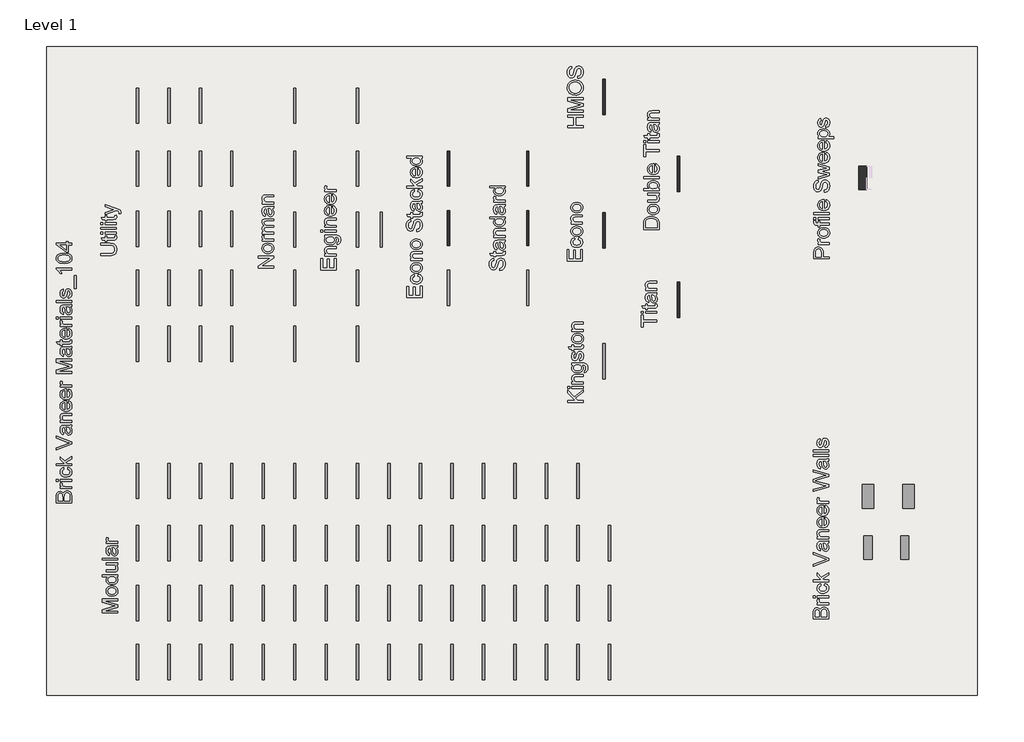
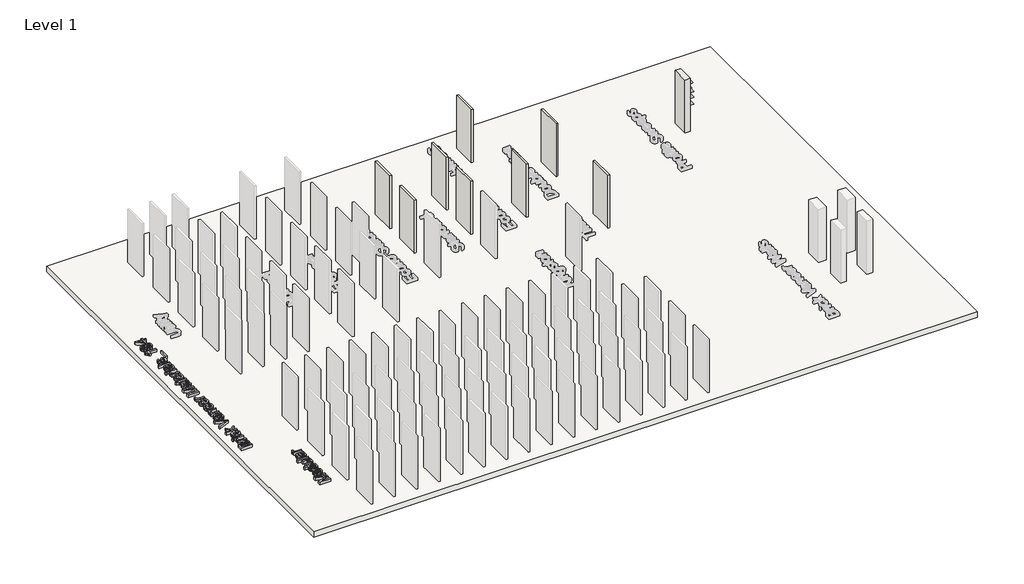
# One storey, part 2 of 6: 9 walls, 2 proxies, 1 slab.
"""IFC4 building model written with IfcOpenShell, lengths in millimetres."""

from ifc_helpers import new_model, si_unit, frame, origin, origin_with_axes, place, context, project, spatial, polyline, outline, extrude, element, save

model = new_model("IFC4")

# Units and contexts
model_context = context("Model", 3, world=origin())
ifc_project = project(units=[si_unit("LENGTHUNIT", "METRE", prefix="MILLI")], contexts=[model_context])

# Site, building, storey
site = spatial("IfcSite", under=ifc_project)
building = spatial("IfcBuilding", under=site)
storey = spatial("IfcBuildingStorey", under=building, Name="Level 1", Elevation=0.0)

# Proxies
placement = place(None, origin())
element("IfcBuildingElementProxy", 1, Name="24\" Arial", ObjectType="24\" Arial", at=placement, inside=storey, context=model_context, shape_type="SweptSolid", body=[
    extrude(outline(polyline([(-13658.2279191, -5062.6196395), (-14258.4494575, -5062.6196395), (-14258.4494575, -4833.5800241), (-14254.0349864, -4770.586803), (-14240.7915729, -4721.4048318), (-14230.7765849, -4701.4114905), (-14218.3895056, -4683.7078126), (-14203.6303349, -4668.2937981), (-14186.4990729, -4655.1694472), (-14148.9852267, -4637.2001683), (-14109.7129191, -4631.2104087), (-14073.572871, -4636.2476683), (-14039.5942652, -4651.3594472), (-14009.8652748, -4676.6556491), (-13986.4740729, -4712.246178), (-13976.8208517, -4689.6014063), (-13964.273496, -4669.7317068), (-13948.8320056, -4652.6370794), (-13930.4963806, -4638.3175241), (-13909.8252989, -4627.0020073), (-13887.3774383, -4618.9194953), (-13863.1527989, -4614.0699881), (-13837.1513806, -4612.4534856), (-13795.2963325, -4616.8679568), (-13756.4819575, -4630.1113703), (-13723.4741691, -4649.8757453), (-13699.0388806, -4673.853101), (-13681.3443614, -4703.2157453), (-13668.5588806, -4739.1359856), (-13660.8106594, -4782.7861299), (-13658.2279191, -4835.3384856), (-13658.2279191, -5062.6196395)]), holes=[polyline([(-14014.6094575, -4987.5919472), (-14014.6094575, -4850.5784856), (-14016.2213806, -4802.6604087), (-14021.0571498, -4770.5684856), (-14032.1757556, -4742.5613222), (-14048.8261883, -4722.430601), (-14070.7520056, -4710.286226), (-14097.6967652, -4706.238101), (-14123.8538806, -4710.0114664), (-14146.6406114, -4721.3315626), (-14164.4267171, -4739.6855049), (-14175.5819575, -4764.5604087), (-14181.4618133, -4802.733678), (-14183.4217652, -4860.9827164), (-14183.4217652, -4987.5919472), (-14014.6094575, -4987.5919472)]), polyline([(-13733.2556114, -4987.5919472), (-13733.2556114, -4833.7265626), (-13736.1863806, -4778.0419472), (-13742.6890248, -4752.196226), (-13752.5254191, -4730.9298318), (-13766.6114287, -4713.6382933), (-13785.8629191, -4699.7171395), (-13809.4189767, -4690.5401683), (-13836.4186883, -4687.481178), (-13867.7779191, -4691.0713703), (-13894.740996, -4701.8419472), (-13915.8242171, -4720.6538222), (-13929.5438806, -4748.3679087), (-13937.0722941, -4787.6218991), (-13939.5817652, -4841.0534856), (-13939.5817652, -4987.5919472), (-13733.2556114, -4987.5919472)])]), origin_with_axes(), (0.0, 0.0, 1.0), 152.4),
    extrude(outline(polyline([(-13658.2279191, -4518.6688703), (-14099.0156114, -4518.6688703), (-14099.0156114, -4453.0196395), (-14033.805996, -4453.0196395), (-14071.6129191, -4428.7675241), (-14093.8867652, -4406.4204087), (-14104.767246, -4384.0000241), (-14108.3940729, -4359.528101), (-14102.6058037, -4322.1607933), (-14085.240996, -4284.2073318), (-14017.9798421, -4309.2654087), (-14029.519746, -4335.6423318), (-14033.3663806, -4362.0192549), (-14029.6662844, -4384.4213222), (-14018.565996, -4404.4421395), (-14000.9081114, -4420.6163222), (-13977.5352267, -4431.4784856), (-13935.6252267, -4440.6005049), (-13889.9052267, -4443.641178), (-13658.2279191, -4443.641178), (-13658.2279191, -4518.6688703)])), origin_with_axes(), (0.0, 0.0, 1.0), 152.4),
    extrude(outline(polyline([(-14183.4217652, -4237.3150241), (-14258.4494575, -4237.3150241), (-14258.4494575, -4162.2873318), (-14183.4217652, -4162.2873318), (-14183.4217652, -4237.3150241)])), origin_with_axes(), (0.0, 0.0, 1.0), 152.4),
    extrude(outline(polyline([(-13658.2279191, -4237.3150241), (-14099.0156114, -4237.3150241), (-14099.0156114, -4162.2873318), (-13658.2279191, -4162.2873318), (-13658.2279191, -4237.3150241)])), origin_with_axes(), (0.0, 0.0, 1.0), 152.4),
    extrude(outline(polyline([(-13817.6617652, -3768.3919472), (-13808.2833037, -3693.3642549), (-13772.8805272, -3701.5246155), (-13741.5533517, -3714.2826203), (-13714.3017772, -3731.6382693), (-13691.1258037, -3753.5915626), (-13672.6299022, -3779.217476), (-13659.4185441, -3807.5909856), (-13651.4917291, -3838.7120914), (-13648.8494575, -3872.5807933), (-13652.5358157, -3914.6602284), (-13663.5948902, -3952.389303), (-13682.0266811, -3985.7680169), (-13707.8311883, -4014.7963703), (-13740.5230032, -4038.2928967), (-13779.6167171, -4055.0761299), (-13825.1123301, -4065.1460698), (-13877.0098421, -4068.5027164), (-13943.7764287, -4062.7693991), (-13973.8213926, -4055.6027525), (-14001.6408037, -4045.5694472), (-14026.675984, -4032.6007933), (-14048.3682556, -4016.628101), (-14066.7176186, -3997.6513703), (-14081.7240729, -3975.670601), (-14093.3921979, -3951.6795073), (-14101.7265729, -3926.671803), (-14106.7271979, -3900.6474881), (-14108.3940729, -3873.6065626), (-14106.1044094, -3840.3194352), (-14099.2354191, -3810.2103606), (-14087.7871017, -3783.279339), (-14071.7594575, -3759.5263703), (-14051.5188325, -3739.3544352), (-14027.4315729, -3723.1665145), (-13999.4976787, -3710.9626082), (-13967.7171498, -3702.7427164), (-13958.3386883, -3777.7704087), (-13991.0717171, -3791.3801683), (-14014.5361883, -3812.5732933), (-14028.6588325, -3840.177476), (-14033.3663806, -3873.0204087), (-14031.0492412, -3898.5135217), (-14024.0978229, -3921.5063222), (-14012.5121258, -3941.9988102), (-13996.2921498, -3959.9909856), (-13975.0623902, -3974.6402525), (-13948.4473421, -3985.1040145), (-13916.4470056, -3991.3822717), (-13879.0613806, -3993.4750241), (-13841.1124984, -3991.428065), (-13808.7412364, -3985.2871876), (-13781.9475945, -3975.0523919), (-13760.7315729, -3960.723678), (-13744.6077628, -3943.08869), (-13733.0907556, -3922.9350722), (-13726.1805513, -3900.2628246), (-13723.8771498, -3875.0719472), (-13729.6287844, -3836.2209376), (-13736.8183277, -3819.4193871), (-13746.8836883, -3804.3671395), (-13759.93477, -3791.4854929), (-13776.0814767, -3781.1957453), (-13795.3238085, -3773.4978967), (-13817.6617652, -3768.3919472)])), origin_with_axes(), (0.0, 0.0, 1.0), 152.4),
    extrude(outline(polyline([(-13658.2279191, -3627.7150241), (-14258.4494575, -3627.7150241), (-14258.4494575, -3552.6873318), (-13935.9183037, -3552.6873318), (-14099.0156114, -3384.461178), (-14099.0156114, -3280.7119472), (-13933.8667652, -3450.9896395), (-13658.2279191, -3271.3334856), (-13658.2279191, -3358.9634856), (-13881.6990729, -3504.7692549), (-13835.2463806, -3552.6873318), (-13658.2279191, -3552.6873318), (-13658.2279191, -3627.7150241)])), origin_with_axes(), (0.0, 0.0, 1.0), 152.4),
    extrude(outline(polyline([(-13658.2279191, -2784.5327164), (-14258.4494575, -3023.3904087), (-14258.4494575, -2943.0873318), (-13826.0144575, -2783.2138703), (-13728.5663806, -2750.8288703), (-13826.0144575, -2718.8834856), (-14258.4494575, -2558.5704087), (-14258.4494575, -2478.2673318), (-13658.2279191, -2707.0138703), (-13658.2279191, -2784.5327164)])), origin_with_axes(), (0.0, 0.0, 1.0), 152.4),
    extrude(outline(polyline([(-13714.4986883, -2136.5396395), (-13683.762246, -2172.3866106), (-13663.6498421, -2209.2959856), (-13652.5495537, -2248.1103606), (-13648.8494575, -2289.6723318), (-13651.0750104, -2323.0785217), (-13657.7516691, -2352.372476), (-13668.8794335, -2377.5541948), (-13684.4583037, -2398.623678), (-13703.499145, -2415.2603727), (-13725.0128229, -2427.143726), (-13748.9993373, -2434.2737381), (-13775.4586883, -2436.6504087), (-13806.5614767, -2433.0602164), (-13834.8067652, -2422.2896395), (-13858.9856114, -2405.6758414), (-13877.8890729, -2384.5559856), (-13892.1765729, -2359.7360337), (-13902.5075344, -2332.0219472), (-13913.790996, -2267.1054087), (-13925.6606114, -2190.3925241), (-13939.5817652, -2136.9792549), (-13956.2871498, -2136.5396395), (-13989.7711883, -2141.7051203), (-14002.1720056, -2148.1619712), (-14011.6786883, -2157.2015626), (-14021.1670537, -2172.826226), (-14027.9444575, -2191.8579087), (-14033.3663806, -2240.1423318), (-14029.757871, -2284.8365626), (-14018.9323421, -2316.0492549), (-13998.9115248, -2337.3339664), (-13967.7171498, -2352.2442549), (-13977.0956114, -2427.2719472), (-14018.1263806, -2414.2483414), (-14050.3648421, -2394.813678), (-14075.0199383, -2367.1545433), (-14093.3006114, -2329.4575241), (-14104.6207075, -2283.3528606), (-14108.3940729, -2230.4707933), (-14105.0603229, -2179.7501683), (-14095.0590729, -2139.543678), (-14080.0205633, -2109.2285337), (-14061.5750344, -2088.1819472), (-14038.7699864, -2074.2241587), (-14010.6529191, -2065.1754087), (-13945.0036883, -2061.5119472), (-13851.6586883, -2061.5119472), (-13721.3127267, -2057.7019472), (-13689.0925825, -2052.0602164), (-13658.2279191, -2042.7550241), (-13658.2279191, -2117.7827164), (-13684.3117652, -2129.7988703), (-13714.4986883, -2136.5396395)]), holes=[polyline([(-13864.5540729, -2136.5396395), (-13852.0616691, -2186.9488703), (-13841.5475344, -2257.5804087), (-13829.3848421, -2322.130601), (-13821.0687844, -2338.9275722), (-13809.6021498, -2351.3650241), (-13795.8641691, -2359.0582933), (-13780.7340729, -2361.6227164), (-13758.4235921, -2356.0359376), (-13740.1429191, -2339.275601), (-13727.9435921, -2311.708053), (-13723.8771498, -2273.6996395), (-13728.3648902, -2233.4015626), (-13741.8281114, -2197.7927164), (-13761.6657556, -2168.9246395), (-13785.2767652, -2148.8488703), (-13809.6021498, -2139.9466587), (-13843.305996, -2136.9792549), (-13864.5540729, -2136.5396395)])]), origin_with_axes(), (0.0, 0.0, 1.0), 152.4),
    extrude(outline(polyline([(-13658.2279191, -1958.3488703), (-14099.0156114, -1958.3488703), (-14099.0156114, -1883.321178), (-14037.4694575, -1883.321178), (-14068.4989767, -1857.2556491), (-14090.6629191, -1825.9513703), (-14103.9612844, -1789.4083414), (-14108.3940729, -1747.6265626), (-14104.8221979, -1710.6439183), (-14094.1065729, -1676.7752164), (-14077.5843614, -1648.529928), (-14056.5927267, -1628.4175241), (-14031.186621, -1614.7711299), (-14001.420996, -1605.9238703), (-13928.8844575, -1601.9673318), (-13658.2279191, -1601.9673318), (-13658.2279191, -1676.9950241), (-13918.7733037, -1676.9950241), (-13957.5693614, -1679.1564664), (-13985.1552267, -1685.6407933), (-14004.9196017, -1697.6019953), (-14020.2511883, -1716.1940626), (-14030.0875825, -1740.0248799), (-14033.3663806, -1767.7023318), (-14031.5254912, -1790.4844832), (-14026.0028229, -1811.645553), (-14016.7983758, -1831.1855409), (-14003.9121498, -1849.1044472), (-13985.8787604, -1864.0742669), (-13961.2328229, -1874.7669953), (-13929.9743373, -1881.1826323), (-13892.1033037, -1883.321178), (-13658.2279191, -1883.321178), (-13658.2279191, -1958.3488703)])), origin_with_axes(), (0.0, 0.0, 1.0), 152.4),
    extrude(outline(polyline([(-13789.5263806, -1190.1942549), (-13780.1479191, -1116.6319472), (-13750.6845296, -1127.9108294), (-13724.719746, -1143.1370914), (-13702.2535681, -1162.3107332), (-13683.285996, -1185.4317549), (-13668.2200104, -1212.2620313), (-13657.4585921, -1242.5634376), (-13651.0017412, -1276.3359736), (-13648.8494575, -1313.5796395), (-13652.5632916, -1360.133077), (-13663.7047941, -1401.6126203), (-13682.2739647, -1438.0182693), (-13708.2708037, -1469.3500241), (-13740.9717772, -1494.5454808), (-13779.6533517, -1512.5422356), (-13824.3155272, -1523.3402885), (-13874.9583037, -1526.9396395), (-13927.3183277, -1523.3036539), (-13973.4687844, -1512.3956972), (-14013.4096739, -1494.2157693), (-14047.140996, -1468.7638703), (-14073.9392171, -1437.5145433), (-14093.0808037, -1401.9423318), (-14104.5657556, -1362.0472356), (-14108.3940729, -1317.8292549), (-14104.5749142, -1275.0354448), (-14093.1174383, -1236.335553), (-14074.021645, -1201.7295794), (-14047.2875344, -1171.2175241), (-14013.6294816, -1146.310565), (-13973.7618614, -1128.5198799), (-13927.6846739, -1117.8454688), (-13875.3979191, -1114.2873318), (-13855.1756114, -1114.7269472), (-13855.1756114, -1451.9119472), (-13825.2359719, -1447.5661659), (-13799.014746, -1438.924976), (-13776.5119335, -1425.9883775), (-13757.7275344, -1408.7563703), (-13742.9179912, -1388.1814544), (-13732.339746, -1365.2161299), (-13725.9927989, -1339.8603967), (-13723.8771498, -1312.1142549), (-13727.7970537, -1272.1825241), (-13739.5567652, -1238.5519472), (-13759.8889767, -1211.2225241), (-13789.5263806, -1190.1942549)]), holes=[polyline([(-13930.2033037, -1451.9119472), (-13930.2033037, -1189.3150241), (-13969.8419575, -1199.4628126), (-13985.4299864, -1208.1910097), (-13998.1971498, -1219.3554087), (-14013.5836883, -1239.8158414), (-14024.5740729, -1263.0971395), (-14031.1683037, -1289.199303), (-14033.3663806, -1318.1223318), (-14031.6124984, -1344.5038342), (-14026.3508517, -1368.6964183), (-14017.5814407, -1390.7000842), (-14005.3042652, -1410.5148318), (-13990.0871618, -1427.1423679), (-13972.4979671, -1439.5843991), (-13952.5366811, -1447.8409256), (-13930.2033037, -1451.9119472)])]), origin_with_axes(), (0.0, 0.0, 1.0), 152.4),
    extrude(outline(polyline([(-13789.5263806, -730.6496395), (-13780.1479191, -657.0873318), (-13750.6845296, -668.366214), (-13724.719746, -683.592476), (-13702.2535681, -702.7661179), (-13683.285996, -725.8871395), (-13668.2200104, -752.7174159), (-13657.4585921, -783.0188222), (-13651.0017412, -816.7913582), (-13648.8494575, -854.0350241), (-13652.5632916, -900.5884616), (-13663.7047941, -942.0680049), (-13682.2739647, -978.4736539), (-13708.2708037, -1009.8054087), (-13740.9717772, -1035.0008655), (-13779.6533517, -1052.9976203), (-13824.3155272, -1063.7956731), (-13874.9583037, -1067.3950241), (-13927.3183277, -1063.7590385), (-13973.4687844, -1052.8510818), (-14013.4096739, -1034.6711539), (-14047.140996, -1009.2192549), (-14073.9392171, -977.969928), (-14093.0808037, -942.3977164), (-14104.5657556, -902.5026203), (-14108.3940729, -858.2846395), (-14104.5749142, -815.4908294), (-14093.1174383, -776.7909376), (-14074.021645, -742.184964), (-14047.2875344, -711.6729087), (-14013.6294816, -686.7659496), (-13973.7618614, -668.9752645), (-13927.6846739, -658.3008534), (-13875.3979191, -654.7427164), (-13855.1756114, -655.1823318), (-13855.1756114, -992.3673318), (-13825.2359719, -988.0215506), (-13799.014746, -979.3803606), (-13776.5119335, -966.4437621), (-13757.7275344, -949.2117549), (-13742.9179912, -928.636839), (-13732.339746, -905.6715145), (-13725.9927989, -880.3157813), (-13723.8771498, -852.5696395), (-13727.7970537, -812.6379087), (-13739.5567652, -779.0073318), (-13759.8889767, -751.6779087), (-13789.5263806, -730.6496395)]), holes=[polyline([(-13930.2033037, -992.3673318), (-13930.2033037, -729.7704087), (-13969.8419575, -739.9181972), (-13985.4299864, -748.6463943), (-13998.1971498, -759.8107933), (-14013.5836883, -780.271226), (-14024.5740729, -803.5525241), (-14031.1683037, -829.6546876), (-14033.3663806, -858.5777164), (-14031.6124984, -884.9592188), (-14026.3508517, -909.151803), (-14017.5814407, -931.1554688), (-14005.3042652, -950.9702164), (-13990.0871618, -967.5977525), (-13972.4979671, -980.0397837), (-13952.5366811, -988.2963102), (-13930.2033037, -992.3673318)])]), origin_with_axes(), (0.0, 0.0, 1.0), 152.4),
    extrude(outline(polyline([(-13658.2279191, -579.7150241), (-14099.0156114, -579.7150241), (-14099.0156114, -514.0657933), (-14033.805996, -514.0657933), (-14071.6129191, -489.813678), (-14093.8867652, -467.4665626), (-14104.767246, -445.046178), (-14108.3940729, -420.5742549), (-14102.6058037, -383.2069472), (-14085.240996, -345.2534856), (-14017.9798421, -370.3115626), (-14029.519746, -396.6884856), (-14033.3663806, -423.0654087), (-14029.6662844, -445.467476), (-14018.565996, -465.4882933), (-14000.9081114, -481.662476), (-13977.5352267, -492.5246395), (-13935.6252267, -501.6466587), (-13889.9052267, -504.6873318), (-13658.2279191, -504.6873318), (-13658.2279191, -579.7150241)])), origin_with_axes(), (0.0, 0.0, 1.0), 152.4),
    extrude(outline(polyline([(-13658.2279191, -54.521178), (-14258.4494575, -54.521178), (-14258.4494575, 74.5792067), (-13835.3929191, 197.3784374), (-13747.0302267, 222.1434374), (-13842.7198421, 248.9599759), (-14258.4494575, 369.7076682), (-14258.4494575, 498.8080528), (-13658.2279191, 498.8080528), (-13658.2279191, 423.7803605), (-14183.4217652, 423.7803605), (-13658.2279191, 272.9922836), (-13658.2279191, 171.2945913), (-14183.4217652, 20.5065144), (-13658.2279191, 20.5065144), (-13658.2279191, -54.521178)])), origin_with_axes(), (0.0, 0.0, 1.0), 152.4),
    extrude(outline(polyline([(-13714.4986883, 902.081899), (-13683.762246, 866.2349278), (-13663.6498421, 829.3255528), (-13652.5495537, 790.5111778), (-13648.8494575, 748.9492067), (-13651.0750104, 715.5430168), (-13657.7516691, 686.2490624), (-13668.8794335, 661.0673437), (-13684.4583037, 639.9978605), (-13703.499145, 623.3611658), (-13725.0128229, 611.4778124), (-13748.9993373, 604.3478004), (-13775.4586883, 601.9711297), (-13806.5614767, 605.561322), (-13834.8067652, 616.331899), (-13858.9856114, 632.945697), (-13877.8890729, 654.0655528), (-13892.1765729, 678.8855047), (-13902.5075344, 706.5995913), (-13913.790996, 771.5161297), (-13925.6606114, 848.2290144), (-13939.5817652, 901.6422836), (-13956.2871498, 902.081899), (-13989.7711883, 896.9164182), (-14002.1720056, 890.4595672), (-14011.6786883, 881.4199759), (-14021.1670537, 865.7953124), (-14027.9444575, 846.7636297), (-14033.3663806, 798.4792067), (-14029.757871, 753.7849759), (-14018.9323421, 722.5722836), (-13998.9115248, 701.287572), (-13967.7171498, 686.3772836), (-13977.0956114, 611.3495913), (-14018.1263806, 624.373197), (-14050.3648421, 643.8078605), (-14075.0199383, 671.4669951), (-14093.3006114, 709.1640144), (-14104.6207075, 755.2686778), (-14108.3940729, 808.1507451), (-14105.0603229, 858.8713701), (-14095.0590729, 899.0778605), (-14080.0205633, 929.3930047), (-14061.5750344, 950.4395913), (-14038.7699864, 964.3973797), (-14010.6529191, 973.4461297), (-13945.0036883, 977.1095913), (-13851.6586883, 977.1095913), (-13721.3127267, 980.9195913), (-13689.0925825, 986.561322), (-13658.2279191, 995.8665144), (-13658.2279191, 920.838822), (-13684.3117652, 908.8226682), (-13714.4986883, 902.081899)]), holes=[polyline([(-13864.5540729, 902.081899), (-13852.0616691, 851.6726682), (-13841.5475344, 781.0411297), (-13829.3848421, 716.4909374), (-13821.0687844, 699.6939663), (-13809.6021498, 687.2565144), (-13795.8641691, 679.5632451), (-13780.7340729, 676.998822), (-13758.4235921, 682.5856009), (-13740.1429191, 699.3459374), (-13727.9435921, 726.9134855), (-13723.8771498, 764.921899), (-13728.3648902, 805.2199759), (-13741.8281114, 840.828822), (-13761.6657556, 869.696899), (-13785.2767652, 889.7726682), (-13809.6021498, 898.6748797), (-13843.305996, 901.6422836), (-13864.5540729, 902.081899)])]), origin_with_axes(), (0.0, 0.0, 1.0), 152.4),
    extrude(outline(polyline([(-13720.7998421, 1239.7065144), (-13656.0298421, 1249.0849759), (-13648.8494575, 1192.9607451), (-13651.9633998, 1156.9489182), (-13661.3052267, 1130.0957451), (-13675.7026306, 1111.1190144), (-13693.9833037, 1098.7365144), (-13725.3791691, 1091.9224759), (-13779.1221498, 1089.6511297), (-14023.9879191, 1089.6511297), (-14023.9879191, 1033.3803605), (-14099.0156114, 1033.3803605), (-14099.0156114, 1089.6511297), (-14206.1352267, 1089.6511297), (-14250.2433037, 1164.678822), (-14099.0156114, 1164.678822), (-14099.0156114, 1239.7065144), (-14023.9879191, 1239.7065144), (-14023.9879191, 1164.678822), (-13781.3202267, 1164.678822), (-13742.6340729, 1168.6353605), (-13728.9327267, 1181.4574759), (-13725.1410441, 1192.2830047), (-13723.8771498, 1207.0284374), (-13720.7998421, 1239.7065144)])), origin_with_axes(), (0.0, 0.0, 1.0), 152.4),
    extrude(outline(polyline([(-13789.5263806, 1623.3442067), (-13780.1479191, 1696.9065144), (-13750.6845296, 1685.6276321), (-13724.719746, 1670.4013701), (-13702.2535681, 1651.2277283), (-13683.285996, 1628.1067067), (-13668.2200104, 1601.2764302), (-13657.4585921, 1570.975024), (-13651.0017412, 1537.2024879), (-13648.8494575, 1499.958822), (-13652.5632916, 1453.4053845), (-13663.7047941, 1411.9258413), (-13682.2739647, 1375.5201922), (-13708.2708037, 1344.1884374), (-13740.9717772, 1318.9929807), (-13779.6533517, 1300.9962259), (-13824.3155272, 1290.198173), (-13874.9583037, 1286.598822), (-13927.3183277, 1290.2348076), (-13973.4687844, 1301.1427644), (-14013.4096739, 1319.3226922), (-14047.140996, 1344.7745913), (-14073.9392171, 1376.0239182), (-14093.0808037, 1411.5961297), (-14104.5657556, 1451.4912259), (-14108.3940729, 1495.7092067), (-14104.5749142, 1538.5030168), (-14093.1174383, 1577.2029086), (-14074.021645, 1611.8088821), (-14047.2875344, 1642.3209374), (-14013.6294816, 1667.2278966), (-13973.7618614, 1685.0185817), (-13927.6846739, 1695.6929927), (-13875.3979191, 1699.2511297), (-13855.1756114, 1698.8115144), (-13855.1756114, 1361.6265144), (-13825.2359719, 1365.9722956), (-13799.014746, 1374.6134855), (-13776.5119335, 1387.5500841), (-13757.7275344, 1404.7820913), (-13742.9179912, 1425.3570071), (-13732.339746, 1448.3223317), (-13725.9927989, 1473.6780648), (-13723.8771498, 1501.4242067), (-13727.7970537, 1541.3559374), (-13739.5567652, 1574.9865144), (-13759.8889767, 1602.3159374), (-13789.5263806, 1623.3442067)]), holes=[polyline([(-13930.2033037, 1361.6265144), (-13930.2033037, 1624.2234374), (-13969.8419575, 1614.075649), (-13985.4299864, 1605.3474519), (-13998.1971498, 1594.1830528), (-14013.5836883, 1573.7226201), (-14024.5740729, 1550.441322), (-14031.1683037, 1524.3391586), (-14033.3663806, 1495.4161297), (-14031.6124984, 1469.0346273), (-14026.3508517, 1444.8420432), (-14017.5814407, 1422.8383773), (-14005.3042652, 1403.0236297), (-13990.0871618, 1386.3960937), (-13972.4979671, 1373.9540624), (-13952.5366811, 1365.697536), (-13930.2033037, 1361.6265144)])]), origin_with_axes(), (0.0, 0.0, 1.0), 152.4),
    extrude(outline(polyline([(-13658.2279191, 1774.278822), (-14099.0156114, 1774.278822), (-14099.0156114, 1839.9280528), (-14033.805996, 1839.9280528), (-14071.6129191, 1864.1801682), (-14093.8867652, 1886.5272836), (-14104.767246, 1908.9476682), (-14108.3940729, 1933.4195913), (-14102.6058037, 1970.786899), (-14085.240996, 2008.7403605), (-14017.9798421, 1983.6822836), (-14029.519746, 1957.3053605), (-14033.3663806, 1930.9284374), (-14029.6662844, 1908.5263701), (-14018.565996, 1888.5055528), (-14000.9081114, 1872.3313701), (-13977.5352267, 1861.4692067), (-13935.6252267, 1852.3471874), (-13889.9052267, 1849.3065144), (-13658.2279191, 1849.3065144), (-13658.2279191, 1774.278822)])), origin_with_axes(), (0.0, 0.0, 1.0), 152.4),
    extrude(outline(polyline([(-14183.4217652, 2055.6326682), (-14258.4494575, 2055.6326682), (-14258.4494575, 2130.6603605), (-14183.4217652, 2130.6603605), (-14183.4217652, 2055.6326682)])), origin_with_axes(), (0.0, 0.0, 1.0), 152.4),
    extrude(outline(polyline([(-13658.2279191, 2055.6326682), (-14099.0156114, 2055.6326682), (-14099.0156114, 2130.6603605), (-13658.2279191, 2130.6603605), (-13658.2279191, 2055.6326682)])), origin_with_axes(), (0.0, 0.0, 1.0), 152.4),
    extrude(outline(polyline([(-13714.4986883, 2524.5557451), (-13683.762246, 2488.708774), (-13663.6498421, 2451.799399), (-13652.5495537, 2412.985024), (-13648.8494575, 2371.4230528), (-13651.0750104, 2338.0168629), (-13657.7516691, 2308.7229086), (-13668.8794335, 2283.5411898), (-13684.4583037, 2262.4717067), (-13703.499145, 2245.8350119), (-13725.0128229, 2233.9516586), (-13748.9993373, 2226.8216466), (-13775.4586883, 2224.4449759), (-13806.5614767, 2228.0351682), (-13834.8067652, 2238.8057451), (-13858.9856114, 2255.4195432), (-13877.8890729, 2276.539399), (-13892.1765729, 2301.3593509), (-13902.5075344, 2329.0734374), (-13913.790996, 2393.9899759), (-13925.6606114, 2470.7028605), (-13939.5817652, 2524.1161297), (-13956.2871498, 2524.5557451), (-13989.7711883, 2519.3902644), (-14002.1720056, 2512.9334134), (-14011.6786883, 2503.893822), (-14021.1670537, 2488.2691586), (-14027.9444575, 2469.2374759), (-14033.3663806, 2420.9530528), (-14029.757871, 2376.258822), (-14018.9323421, 2345.0461297), (-13998.9115248, 2323.7614182), (-13967.7171498, 2308.8511297), (-13977.0956114, 2233.8234374), (-14018.1263806, 2246.8470432), (-14050.3648421, 2266.2817067), (-14075.0199383, 2293.9408413), (-14093.3006114, 2331.6378605), (-14104.6207075, 2377.742524), (-14108.3940729, 2430.6245913), (-14105.0603229, 2481.3452163), (-14095.0590729, 2521.5517067), (-14080.0205633, 2551.8668509), (-14061.5750344, 2572.9134374), (-14038.7699864, 2586.8712259), (-14010.6529191, 2595.9199759), (-13945.0036883, 2599.5834374), (-13851.6586883, 2599.5834374), (-13721.3127267, 2603.3934374), (-13689.0925825, 2609.0351682), (-13658.2279191, 2618.3403605), (-13658.2279191, 2543.3126682), (-13684.3117652, 2531.2965144), (-13714.4986883, 2524.5557451)]), holes=[polyline([(-13864.5540729, 2524.5557451), (-13852.0616691, 2474.1465144), (-13841.5475344, 2403.5149759), (-13829.3848421, 2338.9647836), (-13821.0687844, 2322.1678124), (-13809.6021498, 2309.7303605), (-13795.8641691, 2302.0370913), (-13780.7340729, 2299.4726682), (-13758.4235921, 2305.059447), (-13740.1429191, 2321.8197836), (-13727.9435921, 2349.3873317), (-13723.8771498, 2387.3957451), (-13728.3648902, 2427.693822), (-13741.8281114, 2463.3026682), (-13761.6657556, 2492.1707451), (-13785.2767652, 2512.2465144), (-13809.6021498, 2521.1487259), (-13843.305996, 2524.1161297), (-13864.5540729, 2524.5557451)])]), origin_with_axes(), (0.0, 0.0, 1.0), 152.4),
    extrude(outline(polyline([(-13658.2279191, 2702.7465144), (-14258.4494575, 2702.7465144), (-14258.4494575, 2777.7742067), (-13658.2279191, 2777.7742067), (-13658.2279191, 2702.7465144)])), origin_with_axes(), (0.0, 0.0, 1.0), 152.4),
    extrude(outline(polyline([(-13789.5263806, 2862.1803605), (-13798.9048421, 2937.2080528), (-13781.7964767, 2941.7415865), (-13766.8129191, 2949.0410336), (-13753.9541691, 2959.1063942), (-13743.2202267, 2971.9376682), (-13734.7576306, 2987.5714903), (-13728.7129191, 3006.0444951), (-13723.8771498, 3051.5080528), (-13728.3099383, 3096.4220913), (-13733.8509239, 3113.8784855), (-13741.6083037, 3128.0011297), (-13760.8781114, 3146.6847836), (-13771.6670056, 3151.355697), (-13783.2252267, 3152.9126682), (-13793.3546979, 3151.3465384), (-13802.348496, 3146.648149), (-13816.9290729, 3127.8545913), (-13826.4540729, 3099.7558413), (-13838.3236883, 3050.628822), (-13858.1246979, 2982.1587259), (-13875.0315729, 2937.6476682), (-13893.4771017, 2909.0543509), (-13917.8940729, 2888.3374759), (-13946.7255152, 2875.7534855), (-13978.4144575, 2871.558822), (-14007.4840248, 2874.9292067), (-14034.3188806, 2885.0403605), (-14057.856621, 2900.9764182), (-14077.0348421, 2921.8215144), (-14089.1059479, 2942.5383894), (-14099.2354191, 2969.5197836), (-14106.1044094, 3000.7141586), (-14108.3940729, 3034.0699759), (-14104.7122941, 3082.9039182), (-14093.6669575, 3125.3634374), (-14076.3387844, 3159.506899), (-14053.808496, 3183.3926682), (-14024.4092171, 3199.218822), (-13986.4740729, 3209.1834374), (-13977.0956114, 3134.1557451), (-14000.706621, 3124.685697), (-14018.4927267, 3105.9470913), (-14029.6479671, 3077.7567547), (-14033.3663806, 3039.9315144), (-14029.8128229, 2996.8492067), (-14019.1521498, 2968.1276682), (-14003.7656114, 2951.9718028), (-13986.0344575, 2946.5865144), (-13974.4945537, 2948.8212259), (-13964.2002267, 2955.5253605), (-13955.0049383, 2966.9919951), (-13947.6413806, 2983.5142067), (-13931.6686883, 3048.1376682), (-13896.3529191, 3158.261322), (-13879.4643614, 3187.3492067), (-13856.3479191, 3209.4032451), (-13826.9303229, 3223.3060817), (-13791.1383037, 3227.9403605), (-13754.1373421, 3222.5001201), (-13719.3344575, 3206.179399), (-13689.4589287, 3179.6009855), (-13667.2400344, 3143.3876682), (-13653.4471017, 3099.6459374), (-13648.8494575, 3050.4822836), (-13651.0658517, 3010.1017788), (-13657.7150344, 2974.8318028), (-13668.7970056, 2944.6723557), (-13684.3117652, 2919.6234374), (-13704.1860441, 2899.1630047), (-13728.3465729, 2882.7690144), (-13756.7933517, 2870.4414663), (-13789.5263806, 2862.1803605)])), origin_with_axes(), (0.0, 0.0, 1.0), 152.4),
    extrude(outline(polyline([(-13489.4156114, 3246.6972836), (-13564.4433037, 3246.6972836), (-13564.4433037, 3734.3772836), (-13489.4156114, 3734.3772836), (-13489.4156114, 3246.6972836)])), origin_with_axes(), (0.0, 0.0, 1.0), 152.4),
    extrude(outline(polyline([(-13658.2279191, 4034.4880528), (-13658.2279191, 3959.4603605), (-14125.9786883, 3959.4603605), (-14100.6458517, 3928.1377644), (-14075.3496498, 3888.3892067), (-14053.2406594, 3846.6623797), (-14037.4694575, 3809.4049759), (-14108.3940729, 3809.4049759), (-14140.4493614, 3868.3317547), (-14178.585996, 3919.3820913), (-14219.1405152, 3959.6252163), (-14258.4494575, 3986.1303605), (-14258.4494575, 4034.4880528), (-13658.2279191, 4034.4880528)])), origin_with_axes(), (0.0, 0.0, 1.0), 152.4),
    extrude(outline(polyline([(-13953.5029191, 4212.678822), (-14049.5771979, 4218.1923317), (-14090.3194695, 4225.0842187), (-14126.198496, 4234.7328605), (-14157.5073541, 4247.0970432), (-14184.539121, 4262.1355528), (-14207.2937965, 4279.8483894), (-14225.7713806, 4300.2355528), (-14240.0680392, 4323.3657331), (-14250.2799383, 4349.3076201), (-14256.4070777, 4378.0612139), (-14258.4494575, 4409.6265144), (-14253.6136883, 4455.859399), (-14239.1063806, 4497.2565144), (-14215.495371, 4531.8762259), (-14183.348496, 4557.776899), (-14142.9405152, 4577.3397836), (-14094.5461883, 4592.9461297), (-14033.091621, 4603.1671874), (-13953.5029191, 4606.5742067), (-13857.9781594, 4601.115649), (-13817.3732676, 4594.2924519), (-13781.5400344, 4584.7399759), (-13750.2174383, 4572.4719591), (-13723.1444575, 4557.5021394), (-13700.3210921, 4539.8305168), (-13681.7473421, 4519.4570913), (-13667.3545176, 4496.299435), (-13657.0739287, 4470.2751201), (-13650.9055753, 4441.3841466), (-13648.8494575, 4409.6265144), (-13652.4213325, 4368.3026682), (-13663.1369575, 4331.6680528), (-13680.9963325, 4299.7226682), (-13705.9994575, 4272.4665144), (-13751.1974142, 4246.309399), (-13807.5139767, 4227.6257451), (-13874.949145, 4216.4155528), (-13953.5029191, 4212.678822)]), holes=[polyline([(-13953.6494575, 4287.7065144), (-13888.4261041, 4289.9045913), (-13835.6310441, 4296.498822), (-13795.2642772, 4307.4892067), (-13767.3258037, 4322.8757451), (-13748.3170176, 4341.4861297), (-13734.7393133, 4362.1480528), (-13726.5926907, 4384.8615144), (-13723.8771498, 4409.6265144), (-13726.6018493, 4434.3915144), (-13734.7759479, 4457.1049759), (-13748.3994455, 4477.766899), (-13767.4723421, 4496.3772836), (-13795.456609, 4511.763822), (-13835.8142171, 4522.7542067), (-13888.5451666, 4529.3484374), (-13953.6494575, 4531.5465144), (-14017.1464046, 4529.4217067), (-14069.0118614, 4523.0472836), (-14109.2458277, 4512.4232451), (-14137.8483037, 4497.5495913), (-14157.7866931, 4479.2506009), (-14172.0283998, 4458.3505528), (-14180.5734239, 4434.849447), (-14183.4217652, 4408.7472836), (-14180.9122941, 4384.1105047), (-14173.3838806, 4361.7817067), (-14160.8365248, 4341.7608894), (-14143.2702267, 4324.0480528), (-14112.1308037, 4308.1486297), (-14070.1475344, 4296.791899), (-14017.3204191, 4289.9778605), (-13953.6494575, 4287.7065144)])]), origin_with_axes(), (0.0, 0.0, 1.0), 152.4),
    extrude(outline(polyline([(-13658.2279191, 4916.0634374), (-13798.9048421, 4916.0634374), (-13798.9048421, 4644.0880528), (-13873.9325344, 4644.0880528), (-14249.070996, 4934.8203605), (-14249.070996, 4991.0911297), (-13873.9325344, 4991.0911297), (-13873.9325344, 5066.118822), (-13798.9048421, 5066.118822), (-13798.9048421, 4991.0911297), (-13658.2279191, 4991.0911297), (-13658.2279191, 4916.0634374)]), holes=[polyline([(-13873.9325344, 4916.0634374), (-14105.7563806, 4916.0634374), (-13873.9325344, 4736.4072836), (-13873.9325344, 4916.0634374)])]), origin_with_axes(), (0.0, 0.0, 1.0), 152.4),
])
element("IfcBuildingElementProxy", 2, Name="24\" Arial", ObjectType="24\" Arial", at=placement, inside=storey, context=model_context, shape_type="SweptSolid", body=[
    extrude(outline(polyline([(-11878.5555755, -9343.4993768), (-12478.777114, -9343.4993768), (-12478.777114, -9214.3989922), (-12055.7205755, -9091.5997614), (-11967.3578832, -9066.8347614), (-12063.0474986, -9040.018223), (-12478.777114, -8919.2705307), (-12478.777114, -8790.170146), (-11878.5555755, -8790.170146), (-11878.5555755, -8865.1978384), (-12403.7494217, -8865.1978384), (-11878.5555755, -9015.9859153), (-11878.5555755, -9117.6836076), (-12403.7494217, -9268.4716845), (-11878.5555755, -9268.4716845), (-11878.5555755, -9343.4993768)])), origin_with_axes(), (0.0, 0.0, 1.0), 152.4),
    extrude(outline(polyline([(-12098.9494217, -8687.0070691), (-12156.0353111, -8682.9497855), (-12205.2264409, -8670.7779345), (-12246.5228111, -8650.4915162), (-12279.9244217, -8622.0905307), (-12301.2732438, -8593.4972134), (-12316.5224024, -8561.9364922), (-12325.6718976, -8527.4083672), (-12328.7217293, -8489.9128384), (-12325.0078952, -8448.5203023), (-12313.8663928, -8411.0934634), (-12295.2972221, -8377.6323215), (-12269.3003832, -8348.1368768), (-12236.7551068, -8324.0633552), (-12198.5406236, -8306.8679826), (-12154.6569337, -8296.550759), (-12105.104037, -8293.1116845), (-12064.9433399, -8294.632021), (-12029.3070178, -8299.1930307), (-11998.1950707, -8306.7947134), (-11971.6074986, -8317.4370691), (-11948.6421741, -8330.9872975), (-11928.3969697, -8347.312598), (-11910.8718856, -8366.4129706), (-11896.0669217, -8388.2884153), (-11884.3026308, -8412.0871773), (-11875.8995659, -8436.9575018), (-11870.8577269, -8462.8993888), (-11869.177114, -8489.9128384), (-11872.8772101, -8531.9098456), (-11883.9774986, -8569.6847134), (-11902.4779793, -8603.2374417), (-11928.3786524, -8632.5680307), (-11961.2399024, -8656.38511), (-12000.622114, -8673.3973095), (-12046.525287, -8683.6046292), (-12098.9494217, -8687.0070691)]), holes=[polyline([(-12099.0959601, -8611.9793768), (-12062.7040491, -8609.8087759), (-12031.1937005, -8603.296973), (-12004.5649144, -8592.4439682), (-11982.8176909, -8577.2497614), (-11965.9245539, -8558.767598), (-11953.8580274, -8538.050723), (-11946.6181116, -8515.0991364), (-11944.2048063, -8489.9128384), (-11946.6318495, -8464.8547614), (-11953.9129793, -8441.9947614), (-11966.0481957, -8421.3328384), (-11983.0374986, -8402.8689922), (-12004.9999505, -8387.6747855), (-12032.054614, -8376.8217807), (-12064.201489, -8370.3099778), (-12101.4405755, -8368.1393768), (-12136.6784962, -8370.3237158), (-12167.3645659, -8376.8767326), (-12193.4987846, -8387.7984273), (-12215.0811524, -8403.0887999), (-12231.9742894, -8421.621336), (-12244.0408159, -8442.269521), (-12251.2807318, -8465.0333552), (-12253.694037, -8489.9128384), (-12251.2898904, -8515.0991364), (-12244.0774505, -8538.050723), (-12232.0567173, -8558.767598), (-12215.2276909, -8577.2497614), (-12193.5445779, -8592.4439682), (-12166.9615851, -8603.296973), (-12135.4787125, -8609.8087759), (-12099.0959601, -8611.9793768)])]), origin_with_axes(), (0.0, 0.0, 1.0), 152.4),
    extrude(outline(polyline([(-11878.5555755, -7936.730146), (-11949.3336524, -7936.730146), (-11914.2651668, -7959.1780066), (-11889.2162486, -7986.3700499), (-11874.1868976, -8018.3062759), (-11869.177114, -8054.9866845), (-11870.9905274, -8079.7516845), (-11876.4307678, -8103.4909153), (-11885.4978351, -8126.2043768), (-11898.1917293, -8147.8920691), (-11914.1323664, -8167.8762518), (-11932.939662, -8185.4791845), (-11954.6136164, -8200.7008672), (-11979.1542293, -8213.5412999), (-12006.0944096, -8223.7348816), (-12034.9670659, -8231.0160114), (-12098.5098063, -8236.8409153), (-12161.2649024, -8231.4739441), (-12217.9386524, -8215.3730307), (-12243.1890611, -8203.3019249), (-12265.3072101, -8188.5564922), (-12284.2930995, -8171.1367326), (-12300.1467293, -8151.042646), (-12312.6482918, -8128.9840283), (-12321.5779793, -8105.6706749), (-12326.9357918, -8081.102586), (-12328.7217293, -8055.2797614), (-12323.6112005, -8018.5718768), (-12308.279614, -7986.1136076), (-12284.7785082, -7958.6010114), (-12255.1594217, -7936.730146), (-12478.777114, -7936.730146), (-12478.777114, -7861.7024537), (-11878.5555755, -7861.7024537), (-11878.5555755, -7936.730146)]), holes=[polyline([(-12098.8028832, -8161.813223), (-12062.4201308, -8159.6975739), (-12030.9372582, -8153.3506268), (-12004.3542654, -8142.7723816), (-11982.6711524, -8127.9628384), (-11965.842126, -8110.2774778), (-11953.8213928, -8091.0717807), (-11946.6089529, -8070.345747), (-11944.2048063, -8048.0993768), (-11946.4990491, -8025.7476821), (-11953.3817774, -8005.1452903), (-11964.8529914, -7986.2922013), (-11980.9126909, -7969.1884153), (-12001.6890971, -7954.9879225), (-12027.3104313, -7944.8447134), (-12057.7766933, -7938.7587879), (-12093.0878832, -7936.730146), (-12131.801513, -7938.7954225), (-12165.0016332, -7944.9912518), (-12192.6882438, -7955.317634), (-12214.8613447, -7969.7745691), (-12231.8506476, -7987.25386), (-12243.985864, -8006.6473095), (-12251.2669938, -8027.9549177), (-12253.694037, -8051.1766845), (-12251.3631596, -8073.8626701), (-12244.3705274, -8094.5887037), (-12232.7161404, -8113.3547855), (-12216.3999986, -8130.1609153), (-12195.0649144, -8144.0087999), (-12168.3537005, -8153.900146), (-12136.2663568, -8159.8349537), (-12098.8028832, -8161.813223)])]), origin_with_axes(), (0.0, 0.0, 1.0), 152.4),
    extrude(outline(polyline([(-11878.5555755, -7467.8070691), (-11954.3159601, -7467.8070691), (-11917.0677149, -7494.9533191), (-11890.4618255, -7526.5689922), (-11874.4982918, -7562.6540884), (-11869.177114, -7603.2086076), (-11872.9138447, -7639.7516364), (-11884.124037, -7673.7668768), (-11900.9759601, -7702.3052422), (-11921.6378832, -7722.417646), (-11946.7325947, -7735.9541364), (-11976.8828832, -7744.7647614), (-12046.6351909, -7749.1609153), (-12319.3432678, -7749.1609153), (-12319.3432678, -7674.133223), (-12081.9509601, -7674.133223), (-12034.4724986, -7672.9975499), (-12005.4578832, -7669.5905307), (-11979.9418736, -7658.655098), (-11960.5438447, -7639.9164922), (-11948.2895659, -7614.6202903), (-11944.2048063, -7584.0120691), (-11948.3811524, -7551.6453864), (-11960.9101909, -7521.3668768), (-11980.6379313, -7496.4003864), (-12006.4103832, -7479.9697614), (-12041.7078351, -7470.8477422), (-12090.0105755, -7467.8070691), (-12319.3432678, -7467.8070691), (-12319.3432678, -7392.7793768), (-11878.5555755, -7392.7793768), (-11878.5555755, -7467.8070691)])), origin_with_axes(), (0.0, 0.0, 1.0), 152.4),
    extrude(outline(polyline([(-11878.5555755, -7289.6162999), (-12478.777114, -7289.6162999), (-12478.777114, -7214.5886076), (-11878.5555755, -7214.5886076), (-11878.5555755, -7289.6162999)])), origin_with_axes(), (0.0, 0.0, 1.0), 152.4),
    extrude(outline(polyline([(-11934.8263447, -6820.693223), (-11904.0899024, -6856.5401941), (-11883.9774986, -6893.4495691), (-11872.8772101, -6932.2639441), (-11869.177114, -6973.8259153), (-11871.4026668, -7007.2321052), (-11878.0793255, -7036.5260595), (-11889.2070899, -7061.7077783), (-11904.7859601, -7082.7772614), (-11923.8268015, -7099.4139561), (-11945.3404793, -7111.2973095), (-11969.3269938, -7118.4273215), (-11995.7863447, -7120.8039922), (-12026.8891332, -7117.2137999), (-12055.1344217, -7106.443223), (-12079.3132678, -7089.8294249), (-12098.2167293, -7068.7095691), (-12112.5042293, -7043.8896172), (-12122.8351909, -7016.1755307), (-12134.1186524, -6951.2589922), (-12145.9882678, -6874.5461076), (-12159.9094217, -6821.1328384), (-12176.6148063, -6820.693223), (-12210.0988447, -6825.8587037), (-12222.499662, -6832.3155547), (-12232.0063447, -6841.355146), (-12241.4947101, -6856.9798095), (-12248.272114, -6876.0114922), (-12253.694037, -6924.2959153), (-12250.0855274, -6968.990146), (-12239.2599986, -7000.2028384), (-12219.2391813, -7021.4875499), (-12188.0448063, -7036.3978384), (-12197.4232678, -7111.4255307), (-12238.454037, -7098.4019249), (-12270.6924986, -7078.9672614), (-12295.3475947, -7051.3081268), (-12313.6282678, -7013.6111076), (-12324.948364, -6967.5064441), (-12328.7217293, -6914.6243768), (-12325.3879793, -6863.9037518), (-12315.3867293, -6823.6972614), (-12300.3482197, -6793.3821172), (-12281.9026909, -6772.3355307), (-12259.0976428, -6758.3777422), (-12230.9805755, -6749.3289922), (-12165.3313447, -6745.6655307), (-12071.9863447, -6745.6655307), (-11941.6403832, -6741.8555307), (-11909.420239, -6736.2137999), (-11878.5555755, -6726.9086076), (-11878.5555755, -6801.9362999), (-11904.6394217, -6813.9524537), (-11934.8263447, -6820.693223)]), holes=[polyline([(-12084.8817293, -6820.693223), (-12072.3893255, -6871.1024537), (-12061.8751909, -6941.7339922), (-12049.7124986, -7006.2841845), (-12041.3964409, -7023.0811557), (-12029.9298063, -7035.5186076), (-12016.1918255, -7043.2118768), (-12001.0617293, -7045.7762999), (-11978.7512486, -7040.189521), (-11960.4705755, -7023.4291845), (-11948.2712486, -6995.8616364), (-11944.2048063, -6957.853223), (-11948.6925467, -6917.555146), (-11962.1557678, -6881.9462999), (-11981.993412, -6853.078223), (-12005.6044217, -6833.0024537), (-12029.9298063, -6824.1002422), (-12063.6336524, -6821.1328384), (-12084.8817293, -6820.693223)])]), origin_with_axes(), (0.0, 0.0, 1.0), 152.4),
    extrude(outline(polyline([(-11878.5555755, -6642.5024537), (-12319.3432678, -6642.5024537), (-12319.3432678, -6576.853223), (-12254.1336524, -6576.853223), (-12291.9405755, -6552.6011076), (-12314.2144217, -6530.2539922), (-12325.0949024, -6507.8336076), (-12328.7217293, -6483.3616845), (-12322.9334601, -6445.9943768), (-12305.5686524, -6408.0409153), (-12238.3074986, -6433.0989922), (-12249.8474024, -6459.4759153), (-12253.694037, -6485.8528384), (-12249.9939409, -6508.2549057), (-12238.8936524, -6528.275723), (-12221.2357678, -6544.4499057), (-12197.8628832, -6555.3120691), (-12155.9528832, -6564.4340884), (-12110.2328832, -6567.4747614), (-11878.5555755, -6567.4747614), (-11878.5555755, -6642.5024537)])), origin_with_axes(), (0.0, 0.0, 1.0), 152.4),
])

# Slab
element("IfcSlab", 3, ObjectType="Generic - 12\"", at=placement, inside=storey, context=model_context, shape_type="SweptSolid", body=[
    extrude(outline(polyline([(21432.406791, 12621.5147035), (21432.406791, -12524.4852965), (-14633.0714093, -12524.4852965), (-14633.0714093, 12621.5147035), (21432.406791, 12621.5147035)])), frame((0.0, 0.0, -304.8), z_axis=(0.0, 0.0, 1.0), x_axis=(1.0, 0.0, 0.0)), (0.0, 0.0, 1.0), 304.8),
])

# Walls
element("IfcWall", 4, ObjectType="Exterior-Wall_STRU_Single-Wythe-Brick_Glen-Gery", at=placement, inside=storey, context=model_context, shape_type="SweptSolid", body=[
    extrude(outline(polyline([(17140.5180269, 7982.3741026), (17140.5180269, 7067.9741026), (16842.0680269, 7067.9741026), (16842.0680269, 7982.3741026), (17140.5180269, 7982.3741026)])), origin_with_axes(), (0.0, 0.0, 1.0), 3048.0),
])
element("IfcWall", 5, ObjectType="Generic - 3 5/8\" 18", at=placement, inside=storey, context=model_context, shape_type="SweptSolid", body=[
    extrude(outline(polyline([(897.9646667, 4897.4901792), (897.9646667, 6269.0901792), (990.0396667, 6269.0901792), (990.0396667, 4897.4901792), (897.9646667, 4897.4901792)])), origin_with_axes(), (0.0, 0.0, 1.0), 3048.0),
])
element("IfcWall", 6, ObjectType="Generic - 3 5/8\" 2", at=placement, inside=storey, context=model_context, shape_type="SweptSolid", body=[
    extrude(outline(polyline([(9803.969291, 2122.0254866), (9803.969291, 3493.6254866), (9896.044291, 3493.6254866), (9896.044291, 2122.0254866), (9803.969291, 2122.0254866)])), origin_with_axes(), (0.0, 0.0, 1.0), 3048.0),
])
element("IfcWall", 7, ObjectType="Generic - 3 5/8\" 26", at=placement, inside=storey, context=model_context, shape_type="SweptSolid", body=[
    extrude(outline(polyline([(3963.9464389, 4897.4901792), (3963.9464389, 6269.0901792), (4056.0214389, 6269.0901792), (4056.0214389, 4897.4901792), (3963.9464389, 4897.4901792)])), origin_with_axes(), (0.0, 0.0, 1.0), 3048.0),
])
element("IfcWall", 8, ObjectType="Generic - 3 5/8\" 27", at=placement, inside=storey, context=model_context, shape_type="SweptSolid", body=[
    extrude(outline(polyline([(3963.9464389, 7202.8524443), (3963.9464389, 8574.4524443), (4056.0214389, 8574.4524443), (4056.0214389, 7202.8524443), (3963.9464389, 7202.8524443)])), origin_with_axes(), (0.0, 0.0, 1.0), 3048.0),
])
element("IfcWall", 9, ObjectType="Generic - 3 5/8\" 44", at=placement, inside=storey, context=model_context, shape_type="SweptSolid", body=[
    extrude(outline(polyline([(6924.8242391, 4802.8398322), (6924.8242391, 6174.4398322), (7016.8992391, 6174.4398322), (7016.8992391, 4802.8398322), (6924.8242391, 4802.8398322)])), origin_with_axes(), (0.0, 0.0, 1.0), 3048.0),
])
element("IfcWall", 10, ObjectType="Generic - 3 5/8\" 45", at=placement, inside=storey, context=model_context, shape_type="SweptSolid", body=[
    extrude(outline(polyline([(897.9646667, 7202.8524443), (897.9646667, 8574.4524443), (990.0396667, 8574.4524443), (990.0396667, 7202.8524443), (897.9646667, 7202.8524443)])), origin_with_axes(), (0.0, 0.0, 1.0), 3048.0),
])
element("IfcWall", 11, ObjectType="Generic - 3 5/8\" 8", at=placement, inside=storey, context=model_context, shape_type="SweptSolid", body=[
    extrude(outline(polyline([(9803.969291, 6996.7472087), (9803.969291, 8368.3472087), (9896.044291, 8368.3472087), (9896.044291, 6996.7472087), (9803.969291, 6996.7472087)])), origin_with_axes(), (0.0, 0.0, 1.0), 3048.0),
])
element("IfcWall", 12, ObjectType="Generic - 4\" 64", at=placement, inside=storey, context=model_context, shape_type="SweptSolid", body=[
    extrude(outline(polyline([(6920.0617391, 9980.1087892), (6920.0617391, 11351.7087892), (7021.6617391, 11351.7087892), (7021.6617391, 9980.1087892), (6920.0617391, 9980.1087892)])), origin_with_axes(), (0.0, 0.0, 1.0), 3048.0),
])

save(model, "model.ifc")
